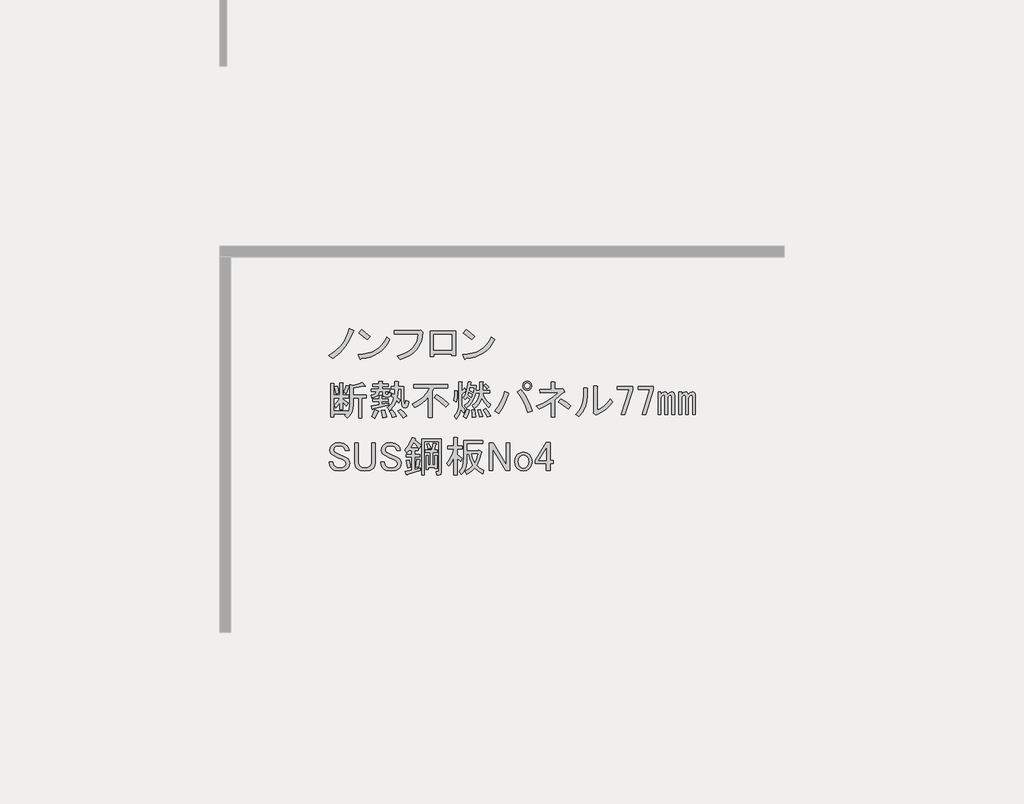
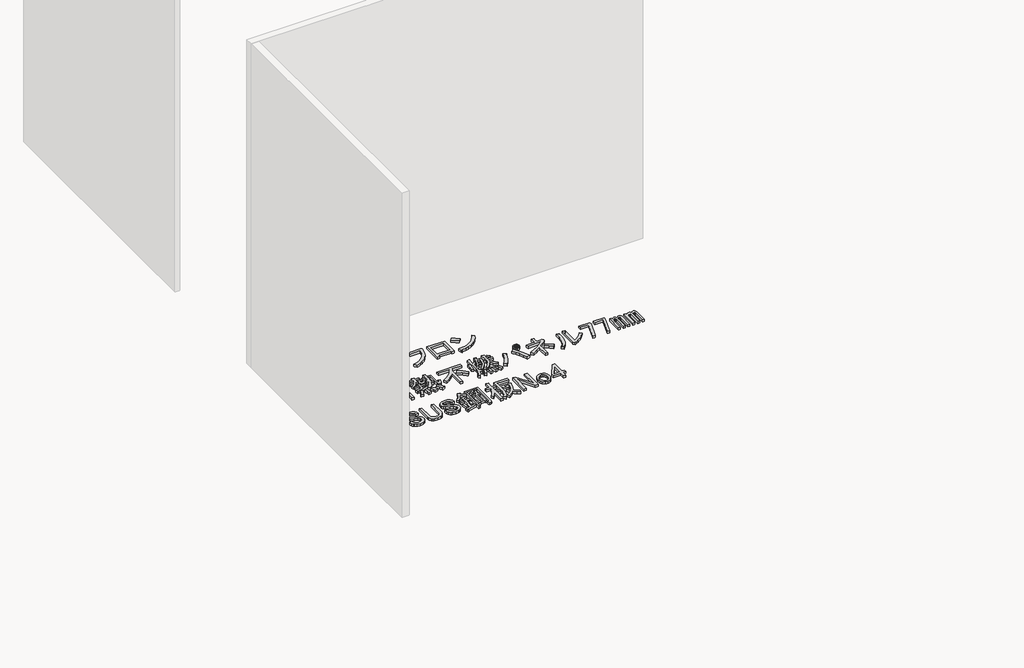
# One storey, part 31 of 117: 1 proxy.
"""IFC4 building model written with IfcOpenShell, lengths in millimetres."""

from ifc_helpers import new_model, si_unit, frame, origin, place, context, project, spatial, polyline, outline, extrude, element, save

model = new_model("IFC4")

# Units and contexts
model_context = context("Model", 3, world=origin())
ifc_project = project(units=[si_unit("LENGTHUNIT", "METRE", prefix="MILLI")], contexts=[model_context])

# Site, building, storey
site = spatial("IfcSite", under=ifc_project)
building = spatial("IfcBuilding", under=site)
storey = spatial("IfcBuildingStorey", under=building, Name="レベル 1", Elevation=500.0)

# Proxy
placement = place(None, origin())
element("IfcBuildingElementProxy", 1, Name="200㎜\u3000MS Pゴシック", ObjectType="200㎜\u3000MS Pゴシック", at=placement, inside=storey, context=model_context, shape_type="SweptSolid", body=[
    extrude(outline(polyline([(16943.6706985, -28607.0496882), (16918.0952502, -28666.8215225), (16889.646156, -28712.7998566), (16847.9782907, -28758.2034615), (16798.8389462, -28795.560858), (16771.2519457, -28773.7211493), (16818.9544673, -28743.2605029), (16858.6107805, -28704.7536481), (16875.9963381, -28680.8305462), (16891.3703435, -28652.7406577), (16904.7327969, -28620.4839827), (16916.0836981, -28584.0605212), (16947.1190736, -28597.8540214), (16950.2800841, -28602.4518548), (16943.6706985, -28607.0496882)])), frame((0.0, 0.0, 500.0), z_axis=(0.0, 0.0, 1.0), x_axis=(1.0, 0.0, 0.0)), (0.0, 0.0, 1.0), 25.0),
    extrude(outline(polyline([(17043.3977052, -28662.2236891), (16984.7753292, -28615.0958967), (17004.3161212, -28590.9572713), (17031.6157571, -28610.7854279), (17065.2374138, -28640.3839804), (17043.3977052, -28662.2236891)])), frame((0.0, 0.0, 500.0), z_axis=(0.0, 0.0, 1.0), x_axis=(1.0, 0.0, 0.0)), (0.0, 0.0, 1.0), 25.0),
    extrude(outline(polyline([(17205.4713328, -28662.2236891), (17188.947869, -28691.965924), (17169.8381239, -28717.9724192), (17148.1420975, -28740.2431748), (17123.8597898, -28758.7781907), (17096.9912008, -28773.577467), (17067.5363306, -28784.6410036), (17035.495179, -28791.9688006), (17000.8677461, -28795.560858), (16995.1204544, -28803.6070664), (16989.3731626, -28797.8597747), (16980.1774958, -28767.9738575), (17016.0082679, -28765.2977748), (17048.7857912, -28758.9937141), (17078.5100658, -28749.0616756), (17105.1810916, -28735.5016591), (17128.7988687, -28718.3136646), (17149.363397, -28697.4976923), (17166.8746766, -28673.053742), (17181.3327074, -28644.9818138), (17205.4713328, -28662.2236891)])), frame((0.0, 0.0, 500.0), z_axis=(0.0, 0.0, 1.0), x_axis=(1.0, 0.0, 0.0)), (0.0, 0.0, 1.0), 25.0),
    extrude(outline(polyline([(17256.2314136, -28777.1695243), (17290.014713, -28767.4889298), (17319.5234641, -28755.1142922), (17344.757667, -28740.0456116), (17365.7173217, -28722.282888), (17382.402428, -28701.8261214), (17394.8129862, -28678.6753118), (17402.9489961, -28652.8304591), (17406.8104577, -28624.2915635), (17234.3917049, -28624.2915635), (17234.3917049, -28599.0034798), (17409.1093744, -28599.0034798), (17425.2017914, -28595.5551047), (17437.8458332, -28607.0496882), (17434.325617, -28643.5449909), (17426.0638851, -28676.5919185), (17413.0606375, -28706.1904711), (17395.3158742, -28732.3406486), (17372.8295952, -28755.042451), (17345.6018005, -28774.2958784), (17313.6324901, -28790.1009308), (17276.921664, -28802.4576081), (17256.2314136, -28777.1695243)])), frame((0.0, 0.0, 500.0), z_axis=(0.0, 0.0, 1.0), x_axis=(1.0, 0.0, 0.0)), (0.0, 0.0, 1.0), 25.0),
    extrude(outline(polyline([(17670.955987, -28776.020066), (17644.5184449, -28776.020066), (17644.5184449, -28763.3760241), (17516.9285679, -28763.3760241), (17516.9285679, -28781.7673577), (17490.4910258, -28781.7673577), (17490.4910258, -28602.4518548), (17670.955987, -28602.4518548), (17670.955987, -28776.020066)]), holes=[polyline([(17516.9285679, -28627.7399386), (17516.9285679, -28738.0879404), (17644.5184449, -28738.0879404), (17644.5184449, -28627.7399386), (17516.9285679, -28627.7399386)])]), frame((0.0, 0.0, 500.0), z_axis=(0.0, 0.0, 1.0), x_axis=(1.0, 0.0, 0.0)), (0.0, 0.0, 1.0), 25.0),
    extrude(outline(polyline([(17947.0099049, -28662.2236891), (17930.4864411, -28691.965924), (17911.376696, -28717.9724192), (17889.6806696, -28740.2431748), (17865.3983619, -28758.7781907), (17838.5297729, -28773.577467), (17809.0749026, -28784.6410036), (17777.0337511, -28791.9688006), (17742.4063182, -28795.560858), (17736.6590264, -28803.6070664), (17730.9117347, -28797.8597747), (17721.7160679, -28767.9738575), (17757.5468399, -28765.2977748), (17790.3243633, -28758.9937141), (17820.0486378, -28749.0616756), (17846.7196637, -28735.5016591), (17870.3374407, -28718.3136646), (17890.9019691, -28697.4976923), (17908.4132486, -28673.053742), (17922.8712795, -28644.9818138), (17947.0099049, -28662.2236891)])), frame((0.0, 0.0, 500.0), z_axis=(0.0, 0.0, 1.0), x_axis=(1.0, 0.0, 0.0)), (0.0, 0.0, 1.0), 25.0),
    extrude(outline(polyline([(17784.9362772, -28662.2236891), (17726.3139013, -28615.0958967), (17745.8546933, -28590.9572713), (17773.1543291, -28610.7854279), (17806.7759859, -28640.3839804), (17784.9362772, -28662.2236891)])), frame((0.0, 0.0, 500.0), z_axis=(0.0, 0.0, 1.0), x_axis=(1.0, 0.0, 0.0)), (0.0, 0.0, 1.0), 25.0),
    extrude(outline(polyline([(16877.0021141, -29039.2345221), (16894.2439894, -28986.3594379), (16914.9342397, -28992.1067296), (16916.6584273, -28995.2677401), (16912.635323, -28997.8540214), (16895.3934477, -29046.1312722), (16877.0021141, -29039.2345221)])), frame((0.0, 0.0, 500.0), z_axis=(0.0, 0.0, 1.0), x_axis=(1.0, 0.0, 0.0)), (0.0, 0.0, 1.0), 25.0),
    extrude(outline(polyline([(17031.0295333, -28990.9572713), (17029.3053458, -28995.5551047), (17021.8338665, -28993.256188), (16944.8201569, -29005.9002299), (16944.8201569, -29055.326939), (17036.7768251, -29055.326939), (17036.7768251, -29077.1666477), (17005.7414495, -29077.1666477), (17005.7414495, -29217.4005666), (16982.7522825, -29217.4005666), (16982.7522825, -29077.1666477), (16944.8201569, -29077.1666477), (16944.8201569, -29126.5933568), (16942.2338756, -29154.3958807), (16934.4750317, -29179.1810764), (16921.5436253, -29200.948944), (16903.4396562, -29219.6994833), (16886.1977809, -29200.1586914), (16896.5429061, -29190.9630245), (16806.8851546, -29190.9630245), (16806.8851546, -29212.8027332), (16783.8959876, -29212.8027332), (16783.8959876, -28973.715396), (16805.7356963, -28973.715396), (16810.6208943, -28976.0143127), (16806.8851546, -28980.6121461), (16806.8851546, -29056.4763974), (16849.4151137, -29056.4763974), (16849.4151137, -28969.1175626), (16867.8064473, -28969.1175626), (16872.6916453, -28971.4164793), (16868.9559057, -28976.0143127), (16868.9559057, -29056.4763974), (16912.635323, -29056.4763974), (16912.635323, -29074.867731), (16868.9559057, -29074.867731), (16868.9559057, -29084.0633978), (16909.186948, -29110.5009399), (16895.3934477, -29132.3406486), (16868.9559057, -29105.9031065), (16868.9559057, -29158.7781907), (16849.4151137, -29158.7781907), (16849.4151137, -29110.5009399), (16836.1963426, -29130.3290965), (16821.8281132, -29146.1341488), (16809.1840713, -29127.7428152), (16831.02378, -29103.6041898), (16848.2656553, -29074.867731), (16806.8851546, -29074.867731), (16806.8851546, -29169.1233159), (16904.5891146, -29169.1233159), (16904.5891146, -29182.9168161), (16917.520521, -29158.7781907), (16921.8309898, -29125.4438985), (16921.8309898, -28980.6121461), (16943.6706985, -28986.3594379), (16979.8786366, -28978.8879586), (17010.339283, -28965.6691875), (17031.0295333, -28990.9572713)])), frame((0.0, 0.0, 500.0), z_axis=(0.0, 0.0, 1.0), x_axis=(1.0, 0.0, 0.0)), (0.0, 0.0, 1.0), 25.0),
    extrude(outline(polyline([(16822.9775716, -29047.2807305), (16810.3335297, -28996.7045631), (16829.8743217, -28989.8078129), (16837.6331656, -29013.9464383), (16842.5183636, -29040.3839804), (16822.9775716, -29047.2807305)])), frame((0.0, 0.0, 500.0), z_axis=(0.0, 0.0, 1.0), x_axis=(1.0, 0.0, 0.0)), (0.0, 0.0, 1.0), 25.0),
    extrude(outline(polyline([(17121.8367431, -29167.9738575), (17125.2851182, -29172.8590555), (17119.5378264, -29176.020066), (17109.7674304, -29201.5955143), (17098.8475761, -29220.8489417), (17075.858409, -29209.3543582), (17088.5024509, -29185.790462), (17098.8475761, -29158.7781907), (17121.8367431, -29167.9738575)])), frame((0.0, 0.0, 500.0), z_axis=(0.0, 0.0, 1.0), x_axis=(1.0, 0.0, 0.0)), (0.0, 0.0, 1.0), 25.0),
    extrude(outline(polyline([(17166.6656188, -29163.3760241), (17176.7233794, -29190.67566), (17181.6085774, -29212.8027332), (17152.8721186, -29218.550025), (17150.2858373, -29196.9976809), (17142.5269934, -29166.8243992), (17166.6656188, -29163.3760241)])), frame((0.0, 0.0, 500.0), z_axis=(0.0, 0.0, 1.0), x_axis=(1.0, 0.0, 0.0)), (0.0, 0.0, 1.0), 25.0),
    extrude(outline(polyline([(17281.611454, -29157.6287323), (17306.3248086, -29178.8937119), (17325.2908714, -29203.6070664), (17298.8533293, -29218.550025), (17279.5999019, -29188.9514724), (17260.9212037, -29169.1233159), (17281.611454, -29157.6287323)])), frame((0.0, 0.0, 500.0), z_axis=(0.0, 0.0, 1.0), x_axis=(1.0, 0.0, 0.0)), (0.0, 0.0, 1.0), 25.0),
    extrude(outline(polyline([(17222.9890781, -29216.2511083), (17214.655505, -29191.5377537), (17201.1493694, -29170.2727742), (17221.8396197, -29162.2265657), (17238.7941304, -29183.7789098), (17250.5760785, -29207.0554415), (17222.9890781, -29216.2511083)])), frame((0.0, 0.0, 500.0), z_axis=(0.0, 0.0, 1.0), x_axis=(1.0, 0.0, 0.0)), (0.0, 0.0, 1.0), 25.0),
    extrude(outline(polyline([(17083.9046175, -29153.0308989), (17081.8930654, -29157.9160969), (17078.1573257, -29156.479274), (17072.410034, -29132.3406486), (17127.5840349, -29124.2944401), (17127.5840349, -29101.3052731), (17083.9046175, -29101.3052731), (17083.9046175, -29082.9139395), (17127.5840349, -29082.9139395), (17127.5840349, -29059.9247724), (17145.9753685, -29059.9247724), (17150.8605665, -29062.2236891), (17147.1248268, -29066.8215225), (17147.1248268, -29082.9139395), (17191.9537026, -29082.9139395), (17191.9537026, -29101.3052731), (17147.1248268, -29101.3052731), (17147.1248268, -29120.8460651), (17197.7009943, -29111.6503983), (17197.7009943, -29127.7428152), (17083.9046175, -29153.0308989)])), frame((0.0, 0.0, 500.0), z_axis=(0.0, 0.0, 1.0), x_axis=(1.0, 0.0, 0.0)), (0.0, 0.0, 1.0), 25.0),
    extrude(outline(polyline([(17154.021577, -29031.1883136), (17128.7334932, -29031.1883136), (17124.1356598, -29048.6457123), (17113.7905346, -29061.9363245), (17097.6981177, -29071.0601502), (17075.858409, -29076.0171893), (17071.2605756, -29056.4763974), (17096.5486594, -29047.8554597), (17104.0201386, -29040.5276627), (17108.0432429, -29031.1883136), (17072.410034, -29031.1883136), (17072.410034, -29012.79698), (17126.4345765, -29012.79698), (17126.4345765, -28995.5551047), (17082.7551591, -28995.5551047), (17082.7551591, -28977.1637711), (17126.4345765, -28977.1637711), (17126.4345765, -28958.7724374), (17148.2742852, -28958.7724374), (17153.1594832, -28961.0713541), (17149.4237436, -28965.6691875), (17149.4237436, -28977.1637711), (17191.9537026, -28977.1637711), (17191.9537026, -28995.5551047), (17149.4237436, -28995.5551047), (17149.4237436, -29012.79698), (17202.2988277, -29012.79698), (17202.2988277, -29031.1883136), (17173.5623689, -29031.1883136), (17173.5623689, -29043.8323555), (17174.9991919, -29049.0049181), (17179.3096607, -29050.7291056), (17189.6547859, -29050.7291056), (17193.3905255, -29047.5680951), (17193.1031609, -29038.0850637), (17212.6439529, -29040.3839804), (17209.770307, -29061.9363245), (17204.4540622, -29067.3244106), (17196.551536, -29069.1204392), (17172.4129106, -29069.1204392), (17158.6194104, -29064.2352412), (17154.021577, -29049.5796472), (17154.021577, -29031.1883136)])), frame((0.0, 0.0, 500.0), z_axis=(0.0, 0.0, 1.0), x_axis=(1.0, 0.0, 0.0)), (0.0, 0.0, 1.0), 25.0),
    extrude(outline(polyline([(17285.0598291, -29013.9464383), (17263.2201204, -29013.9464383), (17258.622287, -29071.4193559), (17278.163079, -29089.8106896), (17267.8179538, -29111.6503983), (17251.7255369, -29095.5579813), (17232.4721095, -29133.2027424), (17202.2988277, -29165.6749408), (17185.0569525, -29144.9846905), (17200.1435933, -29133.0590601), (17213.2186821, -29117.9724192), (17224.2822187, -29099.7247679), (17233.3342033, -29078.316106), (17216.092328, -29063.3731475), (17224.1385364, -29046.1312722), (17237.9320367, -29056.4763974), (17240.2309534, -29013.9464383), (17212.6439529, -29013.9464383), (17212.6439529, -28995.5551047), (17240.2309534, -28995.5551047), (17240.2309534, -28961.0713541), (17262.0706621, -28961.0713541), (17266.95586, -28963.3702708), (17263.2201204, -28967.9681043), (17263.2201204, -28995.5551047), (17304.6006211, -28995.5551047), (17304.6006211, -29092.1096063), (17308.0489961, -29116.2482317), (17311.2818477, -29118.2597838), (17314.0836525, -29115.0987733), (17318.3941213, -29093.2590646), (17337.9349133, -29100.1558147), (17333.408921, -29126.9525626), (17325.578236, -29142.9731384), (17314.4428582, -29148.2175421), (17300.0027877, -29142.6857738), (17293.4652433, -29135.3579768), (17288.7955687, -29123.719711), (17285.0598291, -29087.5117729), (17285.0598291, -29013.9464383)])), frame((0.0, 0.0, 500.0), z_axis=(0.0, 0.0, 1.0), x_axis=(1.0, 0.0, 0.0)), (0.0, 0.0, 1.0), 25.0),
    extrude(outline(polyline([(17373.5681222, -28980.6121461), (17614.9543761, -28980.6121461), (17614.9543761, -29005.9002299), (17514.9514995, -29005.9002299), (17504.6063743, -29030.0388553), (17504.6063743, -29216.2511083), (17478.1688322, -29216.2511083), (17478.1688322, -29069.1204392), (17457.3348996, -29092.3969709), (17433.9146857, -29112.7998566), (17407.9081905, -29130.3290965), (17379.315414, -29144.9846905), (17363.222997, -29118.5471484), (17402.807469, -29098.1442626), (17436.500967, -29072.5688143), (17464.3034909, -29041.8208034), (17486.2150407, -29005.9002299), (17373.5681222, -29005.9002299), (17373.5681222, -28980.6121461)])), frame((0.0, 0.0, 500.0), z_axis=(0.0, 0.0, 1.0), x_axis=(1.0, 0.0, 0.0)), (0.0, 0.0, 1.0), 25.0),
    extrude(outline(polyline([(17600.0114176, -29141.5363154), (17560.9298336, -29103.3168252), (17519.5493329, -29073.7182726), (17535.6417498, -29053.0280223), (17579.3211672, -29081.1897519), (17620.7016679, -29119.6966067), (17600.0114176, -29141.5363154)])), frame((0.0, 0.0, 500.0), z_axis=(0.0, 0.0, 1.0), x_axis=(1.0, 0.0, 0.0)), (0.0, 0.0, 1.0), 25.0),
    extrude(outline(polyline([(17767.832337, -29163.3760241), (17759.2113993, -29193.8366704), (17744.8431699, -29220.8489417), (17725.3023779, -29208.2048998), (17739.3832427, -29183.4915453), (17749.4410033, -29155.3298156), (17767.832337, -29163.3760241)])), frame((0.0, 0.0, 500.0), z_axis=(0.0, 0.0, 1.0), x_axis=(1.0, 0.0, 0.0)), (0.0, 0.0, 1.0), 25.0),
    extrude(outline(polyline([(17682.7724189, -29025.4410219), (17687.3702523, -29027.7399386), (17682.7724189, -29032.337772), (17681.6229605, -29071.9940851), (17675.8756688, -29105.9031065), (17657.4843352, -29093.2590646), (17663.2316269, -29058.7753141), (17664.3810853, -29021.9926468), (17682.7724189, -29025.4410219)])), frame((0.0, 0.0, 500.0), z_axis=(0.0, 0.0, 1.0), x_axis=(1.0, 0.0, 0.0)), (0.0, 0.0, 1.0), 25.0),
    extrude(outline(polyline([(17734.4980447, -29007.0496882), (17743.6937116, -29024.2915635), (17745.1305345, -29030.3262199), (17740.2453365, -29030.0388553), (17713.8077944, -29050.7291056), (17713.8077944, -29134.6395653), (17727.6012946, -29146.9962426), (17739.0958781, -29163.3760241), (17726.4518363, -29184.0662744), (17708.0605026, -29158.7781907), (17696.2785545, -29194.6987642), (17674.7262104, -29224.2973168), (17659.7832519, -29205.9059831), (17674.8698927, -29187.1554438), (17685.6460648, -29166.5370346), (17692.111768, -29144.0507556), (17694.2670024, -29119.6966067), (17694.2670024, -28962.2208125), (17712.6583361, -28962.2208125), (17717.543534, -28964.5197292), (17713.8077944, -28969.1175626), (17713.8077944, -29027.7399386), (17734.4980447, -29007.0496882)])), frame((0.0, 0.0, 500.0), z_axis=(0.0, 0.0, 1.0), x_axis=(1.0, 0.0, 0.0)), (0.0, 0.0, 1.0), 25.0),
    extrude(outline(polyline([(17885.0770889, -28976.0143127), (17906.9167975, -29000.1529381), (17889.6749223, -29011.6475216), (17883.0655367, -29000.1529381), (17870.1341303, -28986.3594379), (17885.0770889, -28976.0143127)])), frame((0.0, 0.0, 500.0), z_axis=(0.0, 0.0, 1.0), x_axis=(1.0, 0.0, 0.0)), (0.0, 0.0, 1.0), 25.0),
    extrude(outline(polyline([(17895.422214, -29212.8027332), (17882.203443, -29184.6410036), (17865.5362969, -29159.927649), (17883.9276305, -29151.8814406), (17902.8936933, -29174.8706076), (17918.4113811, -29202.4576081), (17895.422214, -29212.8027332)])), frame((0.0, 0.0, 500.0), z_axis=(0.0, 0.0, 1.0), x_axis=(1.0, 0.0, 0.0)), (0.0, 0.0, 1.0), 25.0),
    extrude(outline(polyline([(17845.9955049, -29157.6287323), (17864.3868385, -29207.0554415), (17840.2482131, -29211.6532749), (17826.4547129, -29161.0771074), (17845.9955049, -29157.6287323)])), frame((0.0, 0.0, 500.0), z_axis=(0.0, 0.0, 1.0), x_axis=(1.0, 0.0, 0.0)), (0.0, 0.0, 1.0), 25.0),
    extrude(outline(polyline([(17787.3731289, -29215.1016499), (17787.9478581, -29188.0893787), (17785.0742122, -29159.927649), (17804.6150042, -29158.7781907), (17810.9370252, -29184.9283682), (17811.5117543, -29212.8027332), (17787.3731289, -29215.1016499)])), frame((0.0, 0.0, 500.0), z_axis=(0.0, 0.0, 1.0), x_axis=(1.0, 0.0, 0.0)), (0.0, 0.0, 1.0), 25.0),
    extrude(outline(polyline([(17906.9167975, -29142.6857738), (17876.1687866, -29112.2251274), (17855.1911717, -29078.316106), (17846.7857575, -29100.4431793), (17835.3630151, -29119.6966067), (17820.9229446, -29136.0763882), (17803.4655459, -29149.5825239), (17789.6720456, -29131.1911902), (17810.5059783, -29112.2969686), (17825.8799837, -29091.2475125), (17835.794062, -29068.042822), (17840.2482131, -29042.6828971), (17811.5117543, -29042.6828971), (17803.537387, -29073.2872258), (17789.9594102, -29100.7305439), (17770.777824, -29125.0128516), (17745.9926283, -29146.1341488), (17733.3485864, -29130.0417319), (17759.2113993, -29108.4893878), (17774.7290871, -29087.5117729), (17752.8893784, -29067.9709809), (17739.0958781, -29088.6612312), (17725.3023779, -29073.7182726), (17737.7308964, -29054.6803687), (17747.4294512, -29029.7514907), (17754.3980425, -28998.9316386), (17758.6366701, -28962.2208125), (17779.3269205, -28964.5197292), (17782.7752955, -28967.1060105), (17777.0280038, -28970.267021), (17774.7290871, -28988.6583546), (17818.4085044, -28988.6583546), (17814.9601294, -29024.2915635), (17840.2482131, -29024.2915635), (17840.2482131, -28962.2208125), (17862.0879218, -28962.2208125), (17866.9731198, -28964.5197292), (17863.2373802, -28969.1175626), (17863.2373802, -29024.2915635), (17912.6640893, -29024.2915635), (17912.6640893, -29042.6828971), (17863.2373802, -29042.6828971), (17869.7749245, -29064.4507647), (17881.3413492, -29084.9254916), (17897.9366542, -29104.1070778), (17919.5608394, -29121.9955234), (17906.9167975, -29142.6857738)]), holes=[polyline([(17782.7752955, -29072.5688143), (17789.6720456, -29053.0280223), (17764.3839619, -29036.9356054), (17758.6366701, -29054.1774807), (17782.7752955, -29072.5688143)]), polyline([(17772.4301704, -29007.0496882), (17768.9817953, -29023.1421052), (17794.269879, -29036.9356054), (17798.8677125, -29007.0496882), (17772.4301704, -29007.0496882)])]), frame((0.0, 0.0, 500.0), z_axis=(0.0, 0.0, 1.0), x_axis=(1.0, 0.0, 0.0)), (0.0, 0.0, 1.0), 25.0),
    extrude(outline(polyline([(18132.2106345, -29016.245355), (18158.8637001, -29052.9561812), (18181.3499791, -29090.6727833), (18199.6694716, -29129.3951616), (18213.8221775, -29169.1233159), (18182.786802, -29179.468441), (18167.3409554, -29136.3637528), (18149.7398744, -29097.856898), (18129.983559, -29063.9478766), (18108.0720092, -29034.6366887), (18132.2106345, -29016.245355)])), frame((0.0, 0.0, 500.0), z_axis=(0.0, 0.0, 1.0), x_axis=(1.0, 0.0, 0.0)), (0.0, 0.0, 1.0), 25.0),
    extrude(outline(polyline([(18044.8517998, -29042.6828971), (18048.874904, -29048.1428243), (18042.5528831, -29053.0280223), (18030.6272527, -29088.4457078), (18015.5406118, -29122.282888), (17997.2929605, -29154.539563), (17975.8842987, -29185.2157328), (17949.4467566, -29167.9738575), (17972.6514471, -29136.5074351), (17991.689351, -29103.0294606), (18006.5604684, -29067.539934), (18017.2647993, -29030.0388553), (18044.8517998, -29042.6828971)])), frame((0.0, 0.0, 500.0), z_axis=(0.0, 0.0, 1.0), x_axis=(1.0, 0.0, 0.0)), (0.0, 0.0, 1.0), 25.0),
    extrude(outline(polyline([(18178.1889686, -29021.9926468), (18165.5449268, -29019.6937301), (18155.1998016, -29012.79698), (18148.3030515, -29002.4518548), (18146.0041348, -28989.8078129), (18148.3030515, -28977.1637711), (18155.1998016, -28966.8186459), (18165.5449268, -28959.9218958), (18178.1889686, -28957.6229791), (18190.8330105, -28959.9218958), (18201.1781357, -28966.8186459), (18208.0748858, -28977.1637711), (18210.3738025, -28989.8078129), (18208.0748858, -29002.4518548), (18201.1781357, -29012.79698), (18190.8330105, -29019.6937301), (18178.1889686, -29021.9926468)]), holes=[polyline([(18178.1889686, -29010.4980633), (18186.5225417, -29009.0612403), (18193.1319272, -29004.7507715), (18197.442396, -28998.141386), (18198.879219, -28989.8078129), (18197.442396, -28981.4742399), (18193.1319272, -28974.8648544), (18186.5225417, -28970.5543855), (18178.1889686, -28969.1175626), (18169.8553956, -28970.5543855), (18163.2460101, -28974.8648544), (18158.9355412, -28981.4742399), (18157.4987183, -28989.8078129), (18158.9355412, -28998.141386), (18163.2460101, -29004.7507715), (18169.8553956, -29009.0612403), (18178.1889686, -29010.4980633)])]), frame((0.0, 0.0, 500.0), z_axis=(0.0, 0.0, 1.0), x_axis=(1.0, 0.0, 0.0)), (0.0, 0.0, 1.0), 25.0),
    extrude(outline(polyline([(18421.8741393, -29011.6475216), (18428.7708894, -29009.3486049), (18441.4149312, -29026.5904802), (18442.5643896, -29032.6251366), (18436.8170978, -29034.6366887), (18373.5968885, -29090.9601479), (18373.5968885, -29211.6532749), (18347.1593464, -29211.6532749), (18347.1593464, -29109.3514816), (18306.9283041, -29133.4901069), (18262.0994283, -29155.3298156), (18242.5586363, -29134.6395653), (18288.1059235, -29115.1706145), (18329.3427419, -29092.3969709), (18366.2690915, -29066.3186345), (18398.8849722, -29036.9356054), (18268.9961784, -29042.6828971), (18265.5478034, -29017.3948134), (18347.1593464, -29015.0958967), (18347.1593464, -28963.3702708), (18370.1485134, -28963.3702708), (18376.1831698, -28966.8186459), (18373.5968885, -28972.5659377), (18373.5968885, -29013.9464383), (18421.8741393, -29011.6475216)])), frame((0.0, 0.0, 500.0), z_axis=(0.0, 0.0, 1.0), x_axis=(1.0, 0.0, 0.0)), (0.0, 0.0, 1.0), 25.0),
    extrude(outline(polyline([(18467.8524733, -29155.3298156), (18430.7824415, -29126.0186277), (18397.7355139, -29104.7536481), (18414.9773892, -29082.9139395), (18453.7716085, -29106.1904711), (18487.3932653, -29132.3406486), (18467.8524733, -29155.3298156)])), frame((0.0, 0.0, 500.0), z_axis=(0.0, 0.0, 1.0), x_axis=(1.0, 0.0, 0.0)), (0.0, 0.0, 1.0), 25.0),
    extrude(outline(polyline([(18674.8469334, -29162.2265657), (18699.6321291, -29150.0135708), (18723.4115488, -29132.9153778), (18746.1851924, -29110.9319868), (18767.9530599, -29084.0633978), (18784.0454768, -29105.9031065), (18760.7689452, -29133.7056304), (18734.6187677, -29157.3413678), (18705.5949443, -29176.8103186), (18673.697475, -29192.1124829), (18664.5018082, -29196.7103163), (18646.1104746, -29182.9168161), (18648.4093913, -29177.1695243), (18648.4093913, -28992.1067296), (18672.5480167, -28992.1067296), (18678.2953084, -28995.5551047), (18674.8469334, -29001.3023965), (18674.8469334, -29162.2265657)])), frame((0.0, 0.0, 500.0), z_axis=(0.0, 0.0, 1.0), x_axis=(1.0, 0.0, 0.0)), (0.0, 0.0, 1.0), 25.0),
    extrude(outline(polyline([(18520.8195142, -29193.2619413), (18545.9639157, -29164.0225944), (18563.9242024, -29131.4785548), (18574.7003745, -29095.6298225), (18578.2924318, -29056.4763974), (18578.2924318, -29004.7507715), (18602.4310572, -29004.7507715), (18608.178349, -29008.1991466), (18604.7299739, -29013.9464383), (18604.7299739, -29055.326939), (18600.9223931, -29101.0897496), (18589.4996507, -29141.82368), (18570.4617468, -29177.5287301), (18543.8086812, -29208.2048998), (18520.8195142, -29193.2619413)])), frame((0.0, 0.0, 500.0), z_axis=(0.0, 0.0, 1.0), x_axis=(1.0, 0.0, 0.0)), (0.0, 0.0, 1.0), 25.0),
    extrude(outline(polyline([(18816.2303107, -28995.5551047), (18925.4288541, -28995.5551047), (18925.4288541, -29020.8431884), (18870.2548532, -29192.1124829), (18844.9667695, -29192.1124829), (18900.1407704, -29017.3948134), (18816.2303107, -29017.3948134), (18816.2303107, -28995.5551047)])), frame((0.0, 0.0, 500.0), z_axis=(0.0, 0.0, 1.0), x_axis=(1.0, 0.0, 0.0)), (0.0, 0.0, 1.0), 25.0),
    extrude(outline(polyline([(18963.3609797, -28995.5551047), (19072.5595232, -28995.5551047), (19072.5595232, -29020.8431884), (19017.3855223, -29192.1124829), (18992.0974385, -29192.1124829), (19047.2714394, -29017.3948134), (18963.3609797, -29017.3948134), (18963.3609797, -28995.5551047)])), frame((0.0, 0.0, 500.0), z_axis=(0.0, 0.0, 1.0), x_axis=(1.0, 0.0, 0.0)), (0.0, 0.0, 1.0), 25.0),
    extrude(outline(polyline([(19125.4346074, -29193.2619413), (19105.8938154, -29193.2619413), (19105.8938154, -29035.786147), (19125.4346074, -29035.786147), (19125.4346074, -29053.0280223), (19137.5039201, -29037.5103346), (19150.7226911, -29032.337772), (19159.9183579, -29033.7745949), (19166.8151081, -29038.0850637), (19173.7118582, -29051.878564), (19186.6432646, -29037.22297), (19200.1494003, -29032.337772), (19208.4829733, -29033.7745949), (19215.0923588, -29038.0850637), (19220.2649214, -29046.7060014), (19221.989109, -29058.7753141), (19221.989109, -29193.2619413), (19202.448317, -29193.2619413), (19202.448317, -29069.1204392), (19199.8620357, -29059.6374078), (19192.1031918, -29056.4763974), (19181.7580666, -29061.0742308), (19175.7234103, -29069.6951684), (19173.7118582, -29079.4655644), (19173.7118582, -29193.2619413), (19154.1710662, -29193.2619413), (19154.1710662, -29069.1204392), (19151.5847849, -29059.6374078), (19143.825941, -29056.4763974), (19133.4808158, -29061.0742308), (19127.4461595, -29069.6951684), (19125.4346074, -29079.4655644), (19125.4346074, -29193.2619413)])), frame((0.0, 0.0, 500.0), z_axis=(0.0, 0.0, 1.0), x_axis=(1.0, 0.0, 0.0)), (0.0, 0.0, 1.0), 25.0),
    extrude(outline(polyline([(19347.2800693, -29032.337772), (19355.6136424, -29033.7745949), (19362.2230279, -29038.0850637), (19367.3955905, -29046.7060014), (19369.119778, -29058.7753141), (19369.119778, -29193.2619413), (19349.578986, -29193.2619413), (19349.578986, -29069.1204392), (19346.9927047, -29059.6374078), (19339.2338609, -29056.4763974), (19328.8887357, -29061.0742308), (19322.8540793, -29069.6951684), (19320.8425272, -29079.4655644), (19320.8425272, -29193.2619413), (19301.3017352, -29193.2619413), (19301.3017352, -29069.1204392), (19298.715454, -29059.6374078), (19290.9566101, -29056.4763974), (19280.6114849, -29061.0742308), (19274.5768286, -29069.6951684), (19272.5652764, -29079.4655644), (19272.5652764, -29193.2619413), (19253.0244845, -29193.2619413), (19253.0244845, -29035.786147), (19272.5652764, -29035.786147), (19272.5652764, -29053.0280223), (19284.6345891, -29037.5103346), (19297.8533602, -29032.337772), (19307.049027, -29033.7745949), (19313.9457771, -29038.0850637), (19320.8425272, -29051.878564), (19333.7739337, -29037.22297), (19347.2800693, -29032.337772)])), frame((0.0, 0.0, 500.0), z_axis=(0.0, 0.0, 1.0), x_axis=(1.0, 0.0, 0.0)), (0.0, 0.0, 1.0), 25.0),
    extrude(outline(polyline([(16779.2981542, -29447.2807305), (16783.3212584, -29426.8778448), (16795.3905711, -29409.3486049), (16815.7934569, -29397.2792922), (16844.8172803, -29393.256188), (16876.1400204, -29397.8540214), (16898.8418228, -29411.6475216), (16910.9111355, -29429.1767615), (16914.9342397, -29449.5796472), (16888.4966976, -29449.5796472), (16886.1977809, -29436.9356054), (16879.3010308, -29426.5904802), (16866.0822598, -29418.8316363), (16847.116197, -29416.245355), (16826.7133112, -29418.5442717), (16813.7819048, -29425.4410219), (16807.7472484, -29434.0619595), (16805.7356963, -29443.8323555), (16810.3335297, -29458.7753141), (16831.02378, -29470.2698976), (16890.7956143, -29496.7074397), (16908.0374896, -29508.2020232), (16917.520521, -29521.9955234), (16920.6815315, -29538.0879404), (16916.6584273, -29559.3529199), (16904.5891146, -29577.1695243), (16894.6031951, -29584.7128448), (16881.8873121, -29590.1009308), (16848.2656553, -29594.4113996), (16814.6439985, -29589.238837), (16801.0660217, -29582.7731338), (16789.6432794, -29573.7211493), (16778.4360604, -29555.3298156), (16774.7003208, -29530.0417319), (16801.1378629, -29530.0417319), (16803.4367796, -29547.8583363), (16810.3335297, -29559.927649), (16826.4259466, -29569.4106804), (16849.4151137, -29572.5716909), (16870.3927286, -29569.698045), (16885.0483226, -29561.0771074), (16891.9450727, -29551.8814406), (16894.2439894, -29542.6857738), (16892.5198019, -29533.2027424), (16887.3472393, -29525.4438985), (16868.9559057, -29513.949315), (16839.0699885, -29500.1558147), (16805.7356963, -29485.2128562), (16789.6432794, -29474.867731), (16781.8844355, -29462.7984183), (16779.2981542, -29447.2807305)])), frame((0.0, 0.0, 500.0), z_axis=(0.0, 0.0, 1.0), x_axis=(1.0, 0.0, 0.0)), (0.0, 0.0, 1.0), 25.0),
    extrude(outline(polyline([(16954.7054987, -29395.5551047), (16981.1430408, -29395.5551047), (16981.1430408, -29533.4901069), (16983.7293221, -29548.1457009), (16991.488166, -29559.927649), (17007.0058537, -29569.4106804), (17028.2708332, -29572.5716909), (17049.5358128, -29569.4106804), (17065.0535005, -29559.927649), (17072.8123444, -29548.1457009), (17075.3986257, -29533.4901069), (17075.3986257, -29395.5551047), (17101.8361678, -29395.5551047), (17101.8361678, -29534.6395653), (17097.8130635, -29557.6287323), (17085.7437508, -29576.020066), (17075.2549434, -29584.0662744), (17062.1798546, -29589.8135662), (17028.2708332, -29594.4113996), (16994.3618119, -29589.8135662), (16981.2867231, -29584.0662744), (16970.7979156, -29576.020066), (16958.7286029, -29557.6287323), (16954.7054987, -29534.6395653), (16954.7054987, -29395.5551047)])), frame((0.0, 0.0, 500.0), z_axis=(0.0, 0.0, 1.0), x_axis=(1.0, 0.0, 0.0)), (0.0, 0.0, 1.0), 25.0),
    extrude(outline(polyline([(17144.1822135, -29447.2807305), (17148.2053177, -29426.8778448), (17160.2746304, -29409.3486049), (17180.6775161, -29397.2792922), (17209.7013395, -29393.256188), (17241.0240796, -29397.8540214), (17263.7258821, -29411.6475216), (17275.7951948, -29429.1767615), (17279.818299, -29449.5796472), (17253.3807569, -29449.5796472), (17251.0818402, -29436.9356054), (17244.1850901, -29426.5904802), (17230.966319, -29418.8316363), (17212.0002562, -29416.245355), (17191.5973705, -29418.5442717), (17178.665964, -29425.4410219), (17172.6313077, -29434.0619595), (17170.6197556, -29443.8323555), (17175.217589, -29458.7753141), (17195.9078393, -29470.2698976), (17255.6796736, -29496.7074397), (17272.9215489, -29508.2020232), (17282.4045803, -29521.9955234), (17285.5655908, -29538.0879404), (17281.5424865, -29559.3529199), (17269.4731738, -29577.1695243), (17259.4872544, -29584.7128448), (17246.7713714, -29590.1009308), (17213.1497146, -29594.4113996), (17179.5280578, -29589.238837), (17165.950081, -29582.7731338), (17154.5273386, -29573.7211493), (17143.3201197, -29555.3298156), (17139.5843801, -29530.0417319), (17166.0219222, -29530.0417319), (17168.3208389, -29547.8583363), (17175.217589, -29559.927649), (17191.3100059, -29569.4106804), (17214.2991729, -29572.5716909), (17235.2767879, -29569.698045), (17249.9323819, -29561.0771074), (17256.829132, -29551.8814406), (17259.1280487, -29542.6857738), (17257.4038611, -29533.2027424), (17252.2312986, -29525.4438985), (17233.8399649, -29513.949315), (17203.9540478, -29500.1558147), (17170.6197556, -29485.2128562), (17154.5273386, -29474.867731), (17146.7684948, -29462.7984183), (17144.1822135, -29447.2807305)])), frame((0.0, 0.0, 500.0), z_axis=(0.0, 0.0, 1.0), x_axis=(1.0, 0.0, 0.0)), (0.0, 0.0, 1.0), 25.0),
    extrude(outline(polyline([(17413.8451429, -29434.6366887), (17372.4646422, -29390.9572713), (17350.6249335, -29430.0388553), (17405.7989344, -29430.0388553), (17405.7989344, -29448.4301889), (17379.3613923, -29448.4301889), (17379.3613923, -29477.1666477), (17417.2935179, -29477.1666477), (17417.2935179, -29495.5579813), (17379.3613923, -29495.5579813), (17379.3613923, -29582.9168161), (17418.4429763, -29572.5716909), (17420.741893, -29592.1124829), (17328.7852248, -29617.4005666), (17326.4863081, -29623.1478584), (17321.8884747, -29619.6994833), (17314.9917246, -29596.7103163), (17359.8206003, -29587.5146495), (17359.8206003, -29495.5579813), (17321.8884747, -29495.5579813), (17321.8884747, -29477.1666477), (17359.8206003, -29477.1666477), (17359.8206003, -29448.4301889), (17337.9808916, -29448.4301889), (17323.037933, -29466.8215225), (17310.3938912, -29446.1312722), (17338.5556208, -29408.4865112), (17363.2689754, -29357.6229791), (17385.1086841, -29363.3702708), (17388.5570591, -29367.1060105), (17382.8097674, -29369.1175626), (17381.660309, -29372.5659377), (17426.4891847, -29410.4980633), (17413.8451429, -29434.6366887)])), frame((0.0, 0.0, 500.0), z_axis=(0.0, 0.0, 1.0), x_axis=(1.0, 0.0, 0.0)), (0.0, 0.0, 1.0), 25.0),
    extrude(outline(polyline([(17417.2935179, -29513.949315), (17419.8797992, -29517.1103254), (17416.1440596, -29519.6966067), (17408.0978511, -29566.8243992), (17389.7065175, -29564.5254825), (17395.4538092, -29510.5009399), (17417.2935179, -29513.949315)])), frame((0.0, 0.0, 500.0), z_axis=(0.0, 0.0, 1.0), x_axis=(1.0, 0.0, 0.0)), (0.0, 0.0, 1.0), 25.0),
    extrude(outline(polyline([(17340.2798083, -29515.0987733), (17351.7743918, -29566.8243992), (17331.0841415, -29572.5716909), (17319.589558, -29520.8460651), (17340.2798083, -29515.0987733)])), frame((0.0, 0.0, 500.0), z_axis=(0.0, 0.0, 1.0), x_axis=(1.0, 0.0, 0.0)), (0.0, 0.0, 1.0), 25.0),
    extrude(outline(polyline([(17481.6631856, -29397.8540214), (17488.8473003, -29413.0843446), (17494.3072275, -29433.4872303), (17477.0653522, -29439.2345221), (17465.5707687, -29402.4518548), (17481.6631856, -29397.8540214)])), frame((0.0, 0.0, 500.0), z_axis=(0.0, 0.0, 1.0), x_axis=(1.0, 0.0, 0.0)), (0.0, 0.0, 1.0), 25.0),
    extrude(outline(polyline([(17534.5382698, -29399.0034798), (17537.1245511, -29402.4518548), (17531.0898948, -29405.9002299), (17518.4458529, -29443.8323555), (17539.1361032, -29443.8323555), (17539.1361032, -29462.2236891), (17508.1007277, -29462.2236891), (17508.1007277, -29550.7319822), (17523.0436863, -29550.7319822), (17523.0436863, -29482.9139395), (17539.1361032, -29482.9139395), (17539.1361032, -29577.1695243), (17523.0436863, -29577.1695243), (17523.0436863, -29569.1233159), (17477.0653522, -29569.1233159), (17477.0653522, -29581.7673577), (17460.9729353, -29581.7673577), (17460.9729353, -29485.2128562), (17477.0653522, -29485.2128562), (17477.0653522, -29550.7319822), (17492.0083108, -29550.7319822), (17492.0083108, -29462.2236891), (17456.3751019, -29462.2236891), (17456.3751019, -29443.8323555), (17502.353436, -29443.8323555), (17512.6985611, -29394.4056463), (17534.5382698, -29399.0034798)])), frame((0.0, 0.0, 500.0), z_axis=(0.0, 0.0, 1.0), x_axis=(1.0, 0.0, 0.0)), (0.0, 0.0, 1.0), 25.0),
    extrude(outline(polyline([(17428.7881014, -29365.6691875), (17569.0220204, -29365.6691875), (17569.0220204, -29605.9059831), (17565.2862807, -29617.1132021), (17554.0790618, -29620.8489417), (17537.9866449, -29620.8489417), (17533.3888115, -29599.009233), (17544.883395, -29599.009233), (17548.33177, -29597.8597747), (17549.4812284, -29594.4113996), (17549.4812284, -29384.0605212), (17448.3288934, -29384.0605212), (17448.3288934, -29623.1478584), (17428.7881014, -29623.1478584), (17428.7881014, -29365.6691875)])), frame((0.0, 0.0, 500.0), z_axis=(0.0, 0.0, 1.0), x_axis=(1.0, 0.0, 0.0)), (0.0, 0.0, 1.0), 25.0),
    extrude(outline(polyline([(17657.5303135, -29623.1478584), (17657.5303135, -29503.6041898), (17639.713709, -29537.8005758), (17620.7476462, -29559.927649), (17609.2530627, -29539.2373987), (17626.494938, -29516.5355963), (17640.2884382, -29492.1096063), (17650.6335634, -29465.9594288), (17657.5303135, -29438.0850637), (17616.1498128, -29438.0850637), (17616.1498128, -29416.245355), (17657.5303135, -29416.245355), (17657.5303135, -29356.4735207), (17679.3700222, -29356.4735207), (17684.2552202, -29358.7724374), (17680.5194805, -29363.3702708), (17680.5194805, -29416.245355), (17718.4516061, -29416.245355), (17718.4516061, -29438.0850637), (17680.5194805, -29438.0850637), (17680.5194805, -29478.316106), (17718.4516061, -29504.7536481), (17708.106481, -29527.7428152), (17680.5194805, -29504.7536481), (17680.5194805, -29623.1478584), (17657.5303135, -29623.1478584)])), frame((0.0, 0.0, 500.0), z_axis=(0.0, 0.0, 1.0), x_axis=(1.0, 0.0, 0.0)), (0.0, 0.0, 1.0), 25.0),
    extrude(outline(polyline([(17740.2913148, -29594.4113996), (17769.0277736, -29577.1695243), (17790.8674823, -29555.3298156), (17773.0508779, -29513.3745858), (17763.2804819, -29472.5688143), (17750.63644, -29472.5688143), (17750.63644, -29496.7074397), (17748.193841, -29538.4471461), (17740.866044, -29572.8590555), (17728.653049, -29599.9431679), (17711.554856, -29619.6994833), (17697.7613558, -29596.7103163), (17710.8364446, -29579.3247587), (17720.1757937, -29557.0540032), (17725.7794031, -29529.8980496), (17727.647273, -29497.856898), (17727.647273, -29377.1637711), (17864.4328169, -29377.1637711), (17864.4328169, -29399.0034798), (17750.63644, -29399.0034798), (17750.63644, -29450.7291056), (17829.9490663, -29450.7291056), (17835.6963581, -29444.9818138), (17855.23715, -29458.7753141), (17856.673973, -29462.5110537), (17851.788775, -29466.8215225), (17839.4320977, -29513.3745858), (17820.7533995, -29554.1803573), (17839.7194623, -29572.5716909), (17871.329567, -29590.9630245), (17862.1339002, -29615.1016499), (17834.2595351, -29599.009233), (17805.8104409, -29573.7211493), (17781.3844509, -29598.1471392), (17749.4869817, -29618.550025), (17740.2913148, -29594.4113996)]), holes=[polyline([(17785.1201906, -29472.5688143), (17793.166399, -29505.6157419), (17805.8104409, -29533.4901069), (17818.4544828, -29507.3399294), (17826.5006912, -29472.5688143), (17785.1201906, -29472.5688143)])]), frame((0.0, 0.0, 500.0), z_axis=(0.0, 0.0, 1.0), x_axis=(1.0, 0.0, 0.0)), (0.0, 0.0, 1.0), 25.0),
    extrude(outline(polyline([(17908.1122342, -29395.5551047), (17936.848693, -29395.5551047), (18028.8053612, -29550.7319822), (18028.8053612, -29395.5551047), (18055.2429033, -29395.5551047), (18055.2429033, -29592.1124829), (18026.5064445, -29592.1124829), (17934.5497763, -29436.9356054), (17934.5497763, -29592.1124829), (17908.1122342, -29592.1124829), (17908.1122342, -29395.5551047)])), frame((0.0, 0.0, 500.0), z_axis=(0.0, 0.0, 1.0), x_axis=(1.0, 0.0, 0.0)), (0.0, 0.0, 1.0), 25.0),
    extrude(outline(polyline([(18088.3932822, -29527.7428152), (18093.2784802, -29500.4431793), (18107.9340742, -29478.316106), (18127.1875015, -29465.3846996), (18150.4640332, -29461.0742308), (18173.7405648, -29465.3846996), (18192.9939922, -29478.316106), (18207.6495862, -29500.4431793), (18212.5347842, -29527.7428152), (18207.6495862, -29555.042451), (18192.9939922, -29577.1695243), (18173.7405648, -29590.1009308), (18150.4640332, -29594.4113996), (18127.1875015, -29590.1009308), (18107.9340742, -29577.1695243), (18093.2784802, -29555.042451), (18088.3932822, -29527.7428152)]), holes=[polyline([(18150.4640332, -29481.7644811), (18137.8199913, -29484.0633978), (18127.4748661, -29490.9601479), (18117.129741, -29507.0525648), (18113.6813659, -29527.7428152), (18116.8423764, -29548.1457009), (18126.3254078, -29563.3760241), (18137.5326267, -29571.134868), (18150.4640332, -29573.7211493), (18163.3954396, -29571.134868), (18174.6026586, -29563.3760241), (18184.08569, -29548.1457009), (18187.2467004, -29527.7428152), (18183.7983254, -29507.0525648), (18173.4532002, -29490.9601479), (18163.1080751, -29484.0633978), (18150.4640332, -29481.7644811)])]), frame((0.0, 0.0, 500.0), z_axis=(0.0, 0.0, 1.0), x_axis=(1.0, 0.0, 0.0)), (0.0, 0.0, 1.0), 25.0),
    extrude(outline(polyline([(18313.1813575, -29393.256188), (18339.6188996, -29393.256188), (18339.6188996, -29519.6966067), (18363.757525, -29519.6966067), (18363.757525, -29541.5363154), (18339.6188996, -29541.5363154), (18339.6188996, -29592.1124829), (18313.1813575, -29592.1124829), (18313.1813575, -29541.5363154), (18236.1676479, -29541.5363154), (18236.1676479, -29518.5471484), (18313.1813575, -29393.256188)]), holes=[polyline([(18313.1813575, -29435.786147), (18261.4557317, -29519.6966067), (18313.1813575, -29519.6966067), (18313.1813575, -29435.786147)])]), frame((0.0, 0.0, 500.0), z_axis=(0.0, 0.0, 1.0), x_axis=(1.0, 0.0, 0.0)), (0.0, 0.0, 1.0), 25.0),
])

save(model, "model.ifc")
